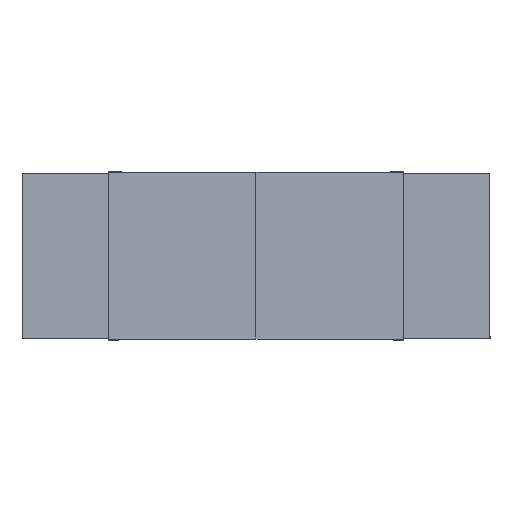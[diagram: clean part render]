
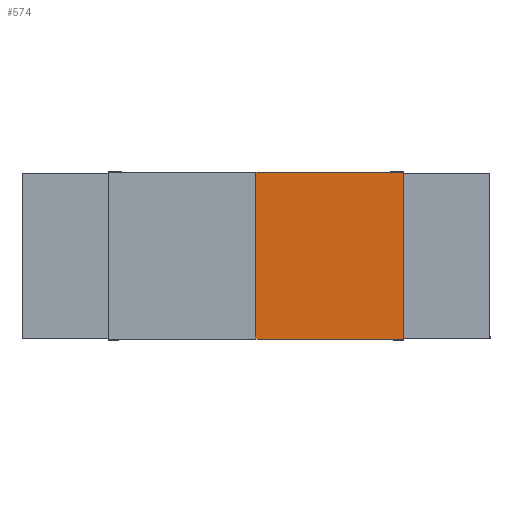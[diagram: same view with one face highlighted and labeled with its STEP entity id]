
A CAD part, top view. The second image highlights one B-rep face of the part: STEP entity #574.
In plain terms, the highlighted planar face has unit normal (0, 0, 1).
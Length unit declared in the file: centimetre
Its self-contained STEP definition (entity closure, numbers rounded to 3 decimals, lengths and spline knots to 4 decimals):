
#208=B_SPLINE_CURVE_WITH_KNOTS($,1,(#5118,#5119),.UNSPECIFIED.,.F.,.F.,(2,
2),(-1790.,-995.),.UNSPECIFIED.);
#211=B_SPLINE_CURVE_WITH_KNOTS($,1,(#5124,#5125),.UNSPECIFIED.,.F.,.F.,(2,
2),(-896.,0.),.UNSPECIFIED.);
#216=B_SPLINE_CURVE_WITH_KNOTS($,3,(#5140,#5141,#5142,#5143),.UNSPECIFIED.,
.F.,.F.,(4,4),(0.,89.6),.UNSPECIFIED.);
#218=B_SPLINE_CURVE_WITH_KNOTS($,1,(#5146,#5147),.UNSPECIFIED.,.F.,.F.,(2,
2),(-795.,0.),.UNSPECIFIED.);
#574=ADVANCED_FACE($,(#768),#2824,.T.);
#768=FACE_OUTER_BOUND($,#962,.T.);
#962=EDGE_LOOP($,(#1512,#1513,#1514,#1515));
#1512=ORIENTED_EDGE($,*,*,#2197,.F.);
#1513=ORIENTED_EDGE($,*,*,#2200,.F.);
#1514=ORIENTED_EDGE($,*,*,#2207,.F.);
#1515=ORIENTED_EDGE($,*,*,#2205,.F.);
#2197=EDGE_CURVE($,#2581,#2585,#208,.T.);
#2200=EDGE_CURVE($,#2583,#2581,#211,.T.);
#2205=EDGE_CURVE($,#2585,#2586,#216,.T.);
#2207=EDGE_CURVE($,#2586,#2583,#218,.T.);
#2581=VERTEX_POINT($,#5175);
#2583=VERTEX_POINT($,#5177);
#2585=VERTEX_POINT($,#5179);
#2586=VERTEX_POINT($,#5180);
#2824=PLANE($,#3118);
#3118=AXIS2_PLACEMENT_3D($,#5168,#3295,$);
#3295=DIRECTION($,(0.,0.,1.));
#5118=CARTESIAN_POINT($,(-154.45,-140.7,75.0514));
#5119=CARTESIAN_POINT($,(-233.95,-140.7,75.0514));
#5124=CARTESIAN_POINT($,(-154.45,-51.1,75.0514));
#5125=CARTESIAN_POINT($,(-154.45,-140.7,75.0514));
#5140=CARTESIAN_POINT($,(-233.95,-140.7,75.0514));
#5141=CARTESIAN_POINT($,(-233.95,-110.8333,75.0514));
#5142=CARTESIAN_POINT($,(-233.95,-80.9667,75.0514));
#5143=CARTESIAN_POINT($,(-233.95,-51.1,75.0514));
#5146=CARTESIAN_POINT($,(-233.95,-51.1,75.0514));
#5147=CARTESIAN_POINT($,(-154.45,-51.1,75.0514));
#5168=CARTESIAN_POINT($,(-233.95,-51.1,75.0514));
#5175=CARTESIAN_POINT($,(-154.45,-140.7,75.0514));
#5177=CARTESIAN_POINT($,(-154.45,-51.1,75.0514));
#5179=CARTESIAN_POINT($,(-233.95,-140.7,75.0514));
#5180=CARTESIAN_POINT($,(-233.95,-51.1,75.0514));
